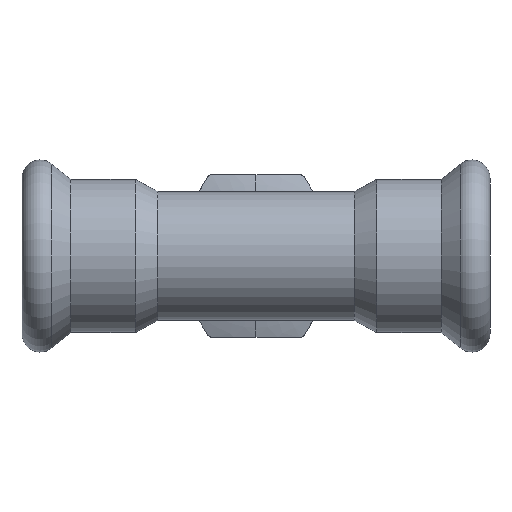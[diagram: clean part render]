
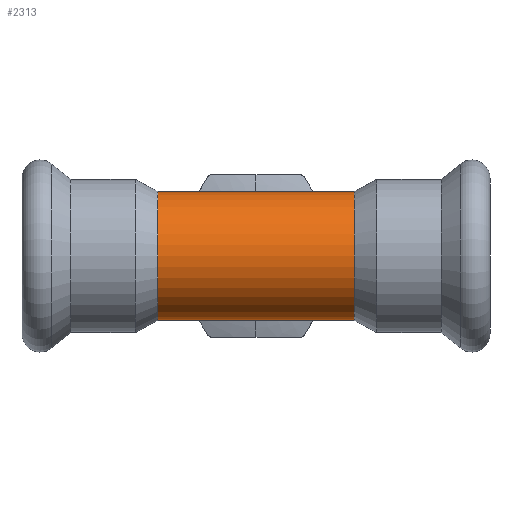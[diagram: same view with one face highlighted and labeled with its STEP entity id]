
A CAD part, front view. The second image highlights one B-rep face of the part: STEP entity #2313.
In plain terms, the highlighted cylindrical face has radius 10.6 mm (diameter 21.2 mm), a partial arc.
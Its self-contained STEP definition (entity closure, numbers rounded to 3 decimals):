
#172 = AXIS2_PLACEMENT_3D ( 'NONE', #5729, #1029, #6709 ) ;
#195 = ORIENTED_EDGE ( 'NONE', *, *, #3459, .F. ) ;
#325 = CYLINDRICAL_SURFACE ( 'NONE', #3099, 10.6 ) ;
#371 = VERTEX_POINT ( 'NONE', #1150 ) ;
#545 = EDGE_CURVE ( 'NONE', #371, #760, #6193, .T. ) ;
#760 = VERTEX_POINT ( 'NONE', #5460 ) ;
#1029 = DIRECTION ( 'NONE',  ( -1., 0., 0. ) ) ;
#1058 = CARTESIAN_POINT ( 'NONE',  ( 0., 0., -10.6 ) ) ;
#1150 = CARTESIAN_POINT ( 'NONE',  ( 16.126, 0., 10.6 ) ) ;
#1831 = ORIENTED_EDGE ( 'NONE', *, *, #3125, .F. ) ;
#2143 = CIRCLE ( 'NONE', #172, 10.6 ) ;
#2248 = ORIENTED_EDGE ( 'NONE', *, *, #3716, .T. ) ;
#2313 = ADVANCED_FACE ( 'NONE', ( #5036 ), #325, .T. ) ;
#2420 = DIRECTION ( 'NONE',  ( -1., 0., 0. ) ) ;
#2592 = CARTESIAN_POINT ( 'NONE',  ( 0., 0., 10.6 ) ) ;
#2784 = DIRECTION ( 'NONE',  ( -1., 0., 0. ) ) ;
#3099 = AXIS2_PLACEMENT_3D ( 'NONE', #5111, #2420, #4483 ) ;
#3125 = EDGE_CURVE ( 'NONE', #3990, #760, #5089, .T. ) ;
#3155 = DIRECTION ( 'NONE',  ( -1., 0., 0. ) ) ;
#3177 = DIRECTION ( 'NONE',  ( -1., 0., 0. ) ) ;
#3209 = LINE ( 'NONE', #1058, #5329 ) ;
#3459 = EDGE_CURVE ( 'NONE', #4612, #3990, #3209, .T. ) ;
#3620 = VECTOR ( 'NONE', #3155, 1000. ) ;
#3716 = EDGE_CURVE ( 'NONE', #4612, #371, #2143, .T. ) ;
#3765 = DIRECTION ( 'NONE',  ( 0., 0., 1. ) ) ;
#3990 = VERTEX_POINT ( 'NONE', #6065 ) ;
#4483 = DIRECTION ( 'NONE',  ( 0., 0., 1. ) ) ;
#4582 = EDGE_LOOP ( 'NONE', ( #195, #2248, #4994, #1831 ) ) ;
#4612 = VERTEX_POINT ( 'NONE', #5892 ) ;
#4753 = AXIS2_PLACEMENT_3D ( 'NONE', #5457, #2784, #3765 ) ;
#4994 = ORIENTED_EDGE ( 'NONE', *, *, #545, .T. ) ;
#5036 = FACE_OUTER_BOUND ( 'NONE', #4582, .T. ) ;
#5089 = CIRCLE ( 'NONE', #4753, 10.6 ) ;
#5111 = CARTESIAN_POINT ( 'NONE',  ( 0., 0., 0. ) ) ;
#5329 = VECTOR ( 'NONE', #3177, 1000. ) ;
#5457 = CARTESIAN_POINT ( 'NONE',  ( -16.126, 0., 0. ) ) ;
#5460 = CARTESIAN_POINT ( 'NONE',  ( -16.126, 0., 10.6 ) ) ;
#5729 = CARTESIAN_POINT ( 'NONE',  ( 16.126, 0., 0. ) ) ;
#5892 = CARTESIAN_POINT ( 'NONE',  ( 16.126, 0., -10.6 ) ) ;
#6065 = CARTESIAN_POINT ( 'NONE',  ( -16.126, 0., -10.6 ) ) ;
#6193 = LINE ( 'NONE', #2592, #3620 ) ;
#6709 = DIRECTION ( 'NONE',  ( 0., 0., 1. ) ) ;
